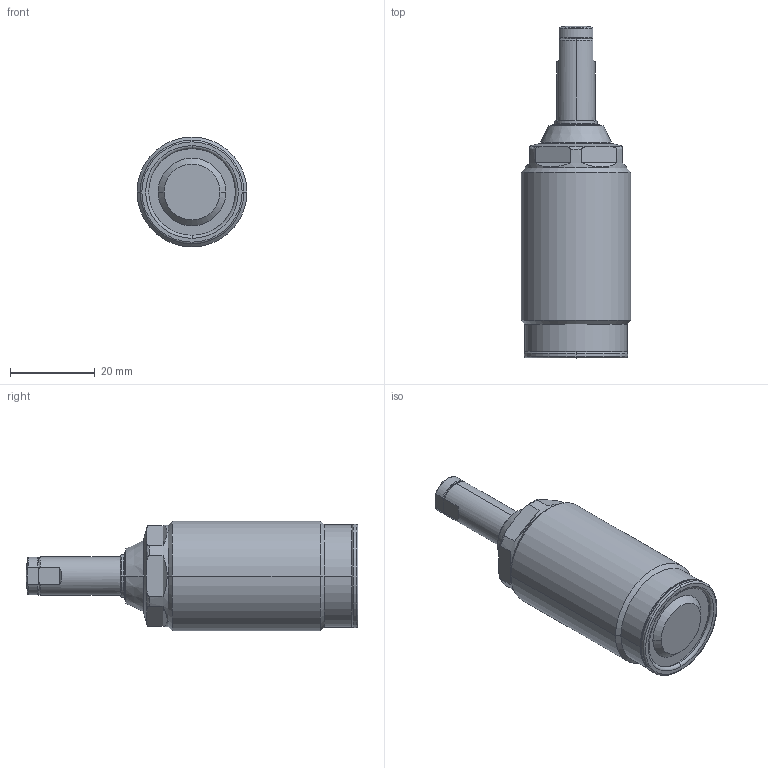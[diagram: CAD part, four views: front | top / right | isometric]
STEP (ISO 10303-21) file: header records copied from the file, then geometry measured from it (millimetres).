
FILE_DESCRIPTION(/* description */ (''),/* implementation_level */ '2;1');
FILE_NAME(/* name */ 'TNE26-Q.stp',/* time_stamp */ '2024-01-16T10:59:19+08:00',/* author */ (''),/* organization */ (''),/* preprocessor_version */ 'ST-DEVELOPER v16.7',/* originating_system */ 'SIEMENS PLM Software NX 12.0',/* authorisation */ '');
FILE_SCHEMA (('AP203_CONFIGURATION_CONTROLLED_3D_DESIGN_OF_MECHANICAL_PARTS_AND_ASSEMBLIES_MIM_LF { 1 0 10303 403 2 1 2}'));
Length unit declared in the file: millimetre
Products named in the file (6): TNE26-Q-5; TNE26-Q-4; TNE26-Q-3; TNE26-Q-2; TNE26-Q-1; TNE26-Q_stp
Assembly tree (5 placements, depth 2):
  TNE26-Q_stp
    TNE26-Q-1
    TNE26-Q-2
    TNE26-Q-3
    TNE26-Q-4
    TNE26-Q-5
Bounding box: 26 x 78.5 x 26 mm (x, y, z)
Volume: 26470 mm3; surface area: 7181 mm2
Topology: 5 solids, 5 shells, 133 faces, 296 edges, 180 vertices
Faces by surface type: torus 41, cylinder 36, plane 34, cone 20, sphere 2
Entity records: 4775 total; most frequent: CARTESIAN_POINT 1089, DIRECTION 700, ORIENTED_EDGE 592, AXIS2_PLACEMENT_3D 307, EDGE_CURVE 296, VERTEX_POINT 180, CIRCLE 168, EDGE_LOOP 146
